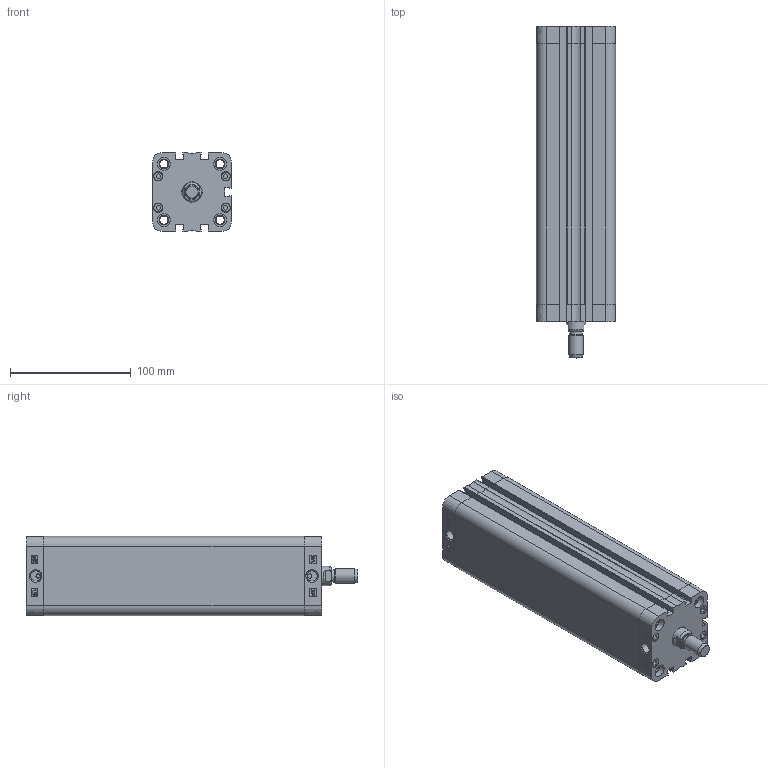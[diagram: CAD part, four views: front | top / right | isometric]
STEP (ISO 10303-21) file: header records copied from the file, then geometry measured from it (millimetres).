
FILE_DESCRIPTION((''),'2;1');
FILE_NAME('T:\Archivio Inventor\- CATALOGHI 2012\SERIE P - NUOVA\PDM\PDM050\PDM050.---.GS.M\PDM050.200.GS.M.stp','2013-02-01T12:22:24',('Administrator'),(''),'Autodesk Inventor 2012','Autodesk Inventor 2012','');
FILE_SCHEMA(('CONFIG_CONTROL_DESIGN'));
Length unit declared in the file: millimetre
Products named in the file (1): PDM050.200.GS.M
Bounding box: 65.5 x 275 x 65.5 mm (x, y, z)
Volume: 444137 mm3; surface area: 177818.9 mm2
Topology: 2 solids, 6 shells, 780 faces, 1860 edges, 1167 vertices
Faces by surface type: plane 335, bspline 196, cylinder 131, torus 56, cone 46, sphere 16
Full cylindrical faces by diameter (mm): 3.5 x2, 5.2 x4, 6.647 x8, 7.5 x8, 7.7 x8, 8.047 x4, 8.566 x2, 10 x1, 10.5 x8, 12 x2, 16 x1, 16.5 x1, 50 x1, 52.4 x1, 52.6 x1
Entity records: 25601 total; most frequent: CARTESIAN_POINT 8486, ORIENTED_EDGE 3488, DIRECTION 2866, EDGE_CURVE 1744, VERTEX_POINT 1148, AXIS2_PLACEMENT_3D 978, EDGE_LOOP 962, VECTOR 910
